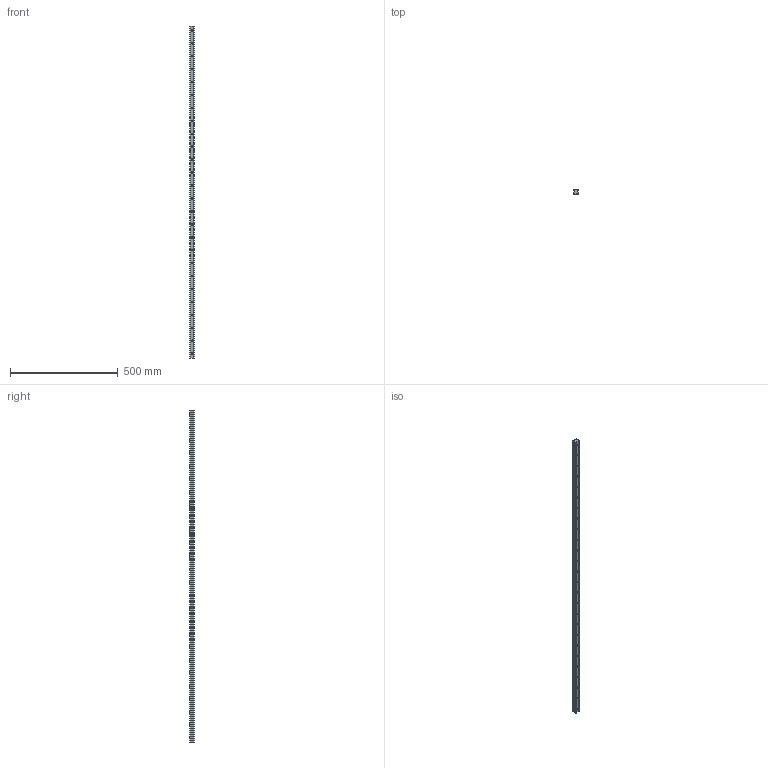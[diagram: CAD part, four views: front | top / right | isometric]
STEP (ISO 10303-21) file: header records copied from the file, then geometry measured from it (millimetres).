
FILE_DESCRIPTION (( 'STEP AP203' ), '1' );
FILE_NAME ('L1016.BL25-1540.step', '2019-06-12T12:08:05', ( '' ), ( '' ), 'SwSTEP 2.0', 'SolidWorks 2017', '' );
FILE_SCHEMA (( 'CONFIG_CONTROL_DESIGN' ));
Length unit declared in the file: millimetre
Products named in the file (1): L1016.BL25-1540
Bounding box: 23 x 19.2 x 1540 mm (x, y, z)
Volume: 567318.9 mm3; surface area: 146150.8 mm2
Topology: 1 solids, 1 shells, 156 faces, 384 edges, 256 vertices
Faces by surface type: cylinder 108, plane 48
Entity records: 4905 total; most frequent: DIRECTION 914, CARTESIAN_POINT 797, ORIENTED_EDGE 768, EDGE_CURVE 384, AXIS2_PLACEMENT_3D 373, VERTEX_POINT 256, EDGE_LOOP 234, CIRCLE 216
